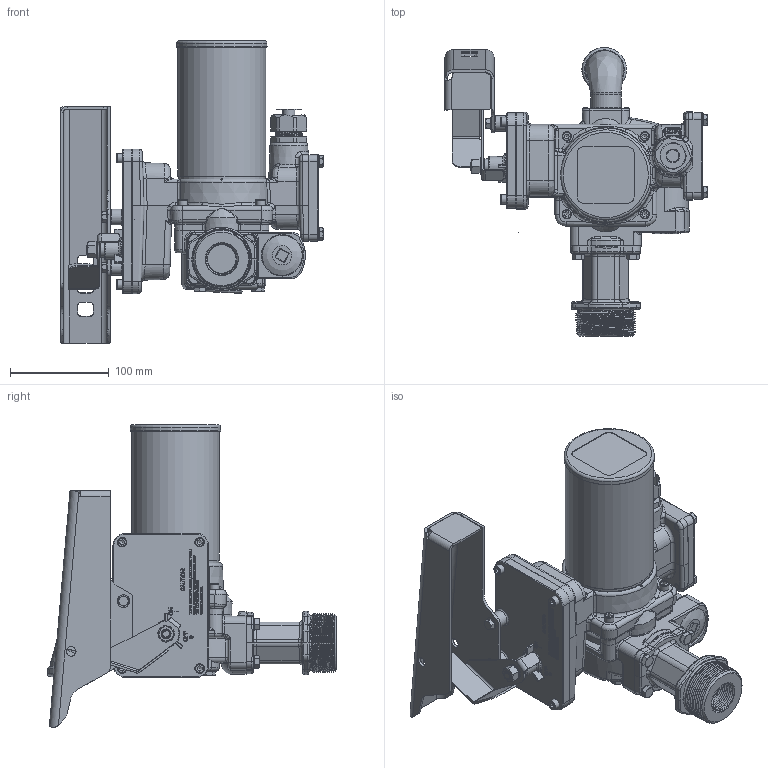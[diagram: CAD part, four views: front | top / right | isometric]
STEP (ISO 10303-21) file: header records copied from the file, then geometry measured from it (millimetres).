
FILE_DESCRIPTION(/* description */ (''),/* implementation_level */ '2;1');
FILE_NAME(/* name */ 'C:\Vault Projects\GPI Eng\New Projects\DHarris\Website model updates\STEP\PRO20-012PO.stp',/* time_stamp */ '2022-07-20T10:12:40-05:00',/* author */ ('gdanhar'),/* organization */ (''),/* preprocessor_version */ 'ST-DEVELOPER v18.1',/* originating_system */ 'Autodesk Inventor 2022',/* authorisation */ '');
FILE_SCHEMA (('AUTOMOTIVE_DESIGN { 1 0 10303 214 3 1 1 }'));
Length unit declared in the file: inch
Products named in the file (1): PRO20-012PO
Bounding box: 265.05 x 292.04 x 305.62 mm (x, y, z)
Volume: 3168691.4 mm3; surface area: 338449.3 mm2
Topology: 2 solids, 5 shells, 5007 faces, 13195 edges, 8474 vertices
Faces by surface type: plane 2698, bspline 1318, cylinder 610, cone 221, torus 140, sphere 20
Full cylindrical faces by diameter (mm): 0.136 x1, 6.35 x19, 6.477 x6, 6.604 x2, 7.806 x4, 9.487 x1, 9.525 x16, 10.541 x1, 11.125 x4, 11.989 x4, 12.141 x7, 12.319 x1, 12.573 x1, 12.7 x2, 12.706 x1, 14.922 x1, 15.875 x2, 19.685 x1, 23.114 x2, 25.4 x1, 26.67 x2, 28.448 x1, 28.956 x2, 30.836 x1, 30.867 x1, 37.338 x1, 38.1 x1, 40.615 x1, 41.91 x1, 44.958 x1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
Entity records: 190317 total; most frequent: CARTESIAN_POINT 71024, ORIENTED_EDGE 26288, DIRECTION 19070, EDGE_CURVE 13144, VERTEX_POINT 8473, LINE 8012, VECTOR 8012, AXIS2_PLACEMENT_3D 5529
